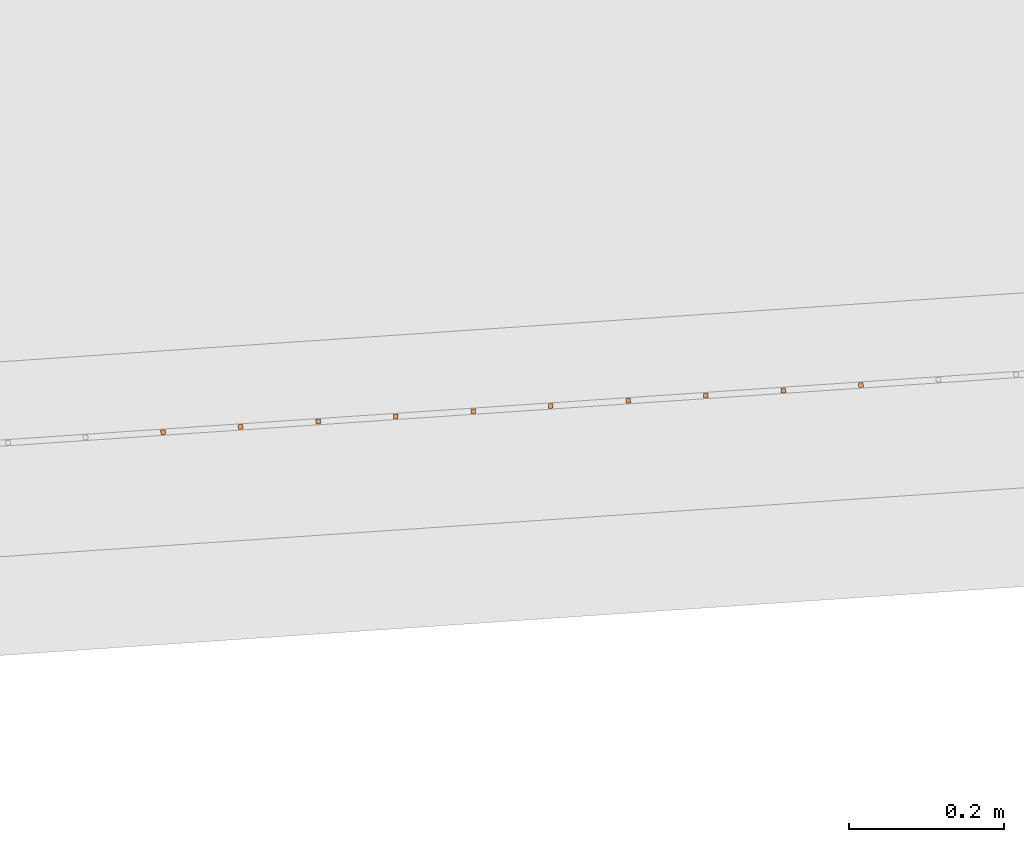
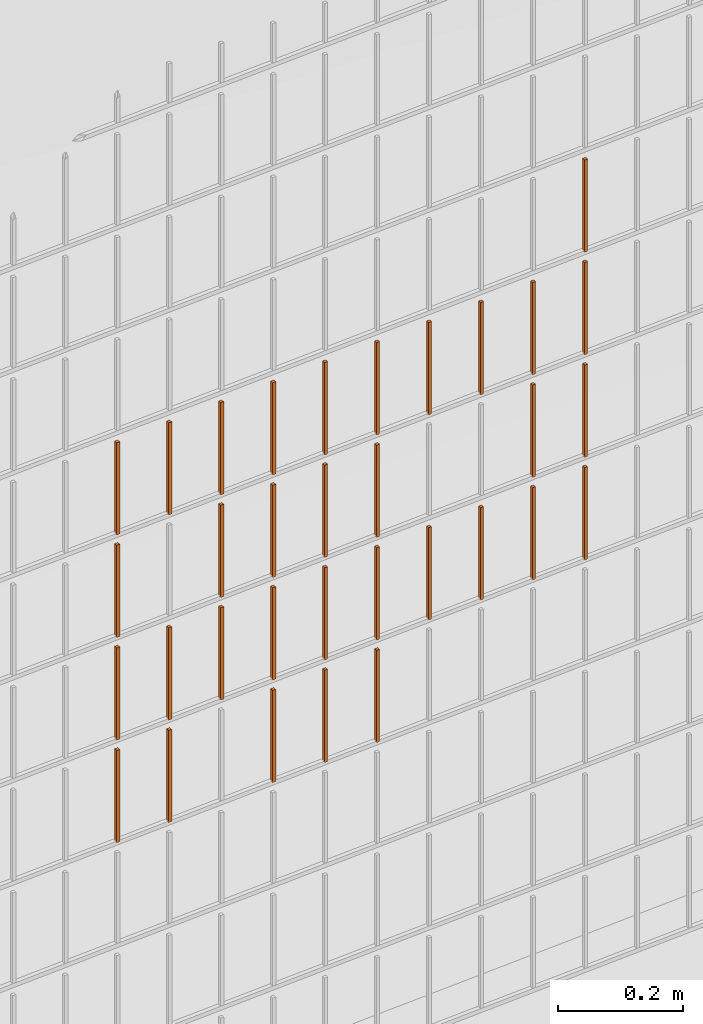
# One storey, part 356 of 1809: 33 proxies, 1 element without a shape of its own.
"""IFC2X3 building model written with IfcOpenShell, lengths in millimetres."""

from ifc_helpers import new_model, entity, si_unit, converted_unit, derived_unit, money_unit, direction, frame, origin_with_axes, place, context, subcontext, project, spatial, faceted_brep, source, transform, mapped, material, type_object, element, aggregate, save


model = new_model("IFC2X3")

# Units and contexts
model_context = context("Model", 3, precision=0.01, world=origin_with_axes(), true_north=direction((0.0, 1.0)))
body_context = subcontext(model_context, "Body", "Model", "MODEL_VIEW")
ifc_project = project(units=[si_unit("LENGTHUNIT", "METRE", prefix="MILLI"), si_unit("AREAUNIT", "SQUARE_METRE"), si_unit("VOLUMEUNIT", "CUBIC_METRE"), converted_unit("PLANEANGLEUNIT", "DEGREE", entity("IfcPlaneAngleMeasure", 0.0174532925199), si_unit("PLANEANGLEUNIT", "RADIAN"), dimensions=[0, 0, 0, 0, 0, 0, 0]), si_unit("SOLIDANGLEUNIT", "STERADIAN"), money_unit("EUR"), converted_unit("TIMEUNIT", "Year", entity("IfcTimeMeasure", 31556926.0), si_unit("TIMEUNIT", "SECOND"), dimensions=[0, 0, 1, 0, 0, 0, 0]), si_unit("MASSUNIT", "GRAM", prefix="KILO"), si_unit("THERMODYNAMICTEMPERATUREUNIT", "DEGREE_CELSIUS"), si_unit("LUMINOUSINTENSITYUNIT", "LUMEN"), si_unit("ENERGYUNIT", "JOULE", prefix="MEGA"), derived_unit("THERMALCONDUCTANCEUNIT", [(si_unit("POWERUNIT", "WATT"), 1), (si_unit("LENGTHUNIT", "METRE"), -1), (si_unit("THERMODYNAMICTEMPERATUREUNIT", "KELVIN"), -1)]), derived_unit("SPECIFICHEATCAPACITYUNIT", [(si_unit("ENERGYUNIT", "JOULE"), 1), (si_unit("MASSUNIT", "GRAM", prefix="KILO"), -1), (si_unit("THERMODYNAMICTEMPERATUREUNIT", "KELVIN"), -1)]), derived_unit("MASSDENSITYUNIT", [(si_unit("MASSUNIT", "GRAM", prefix="KILO"), 1), (si_unit("VOLUMEUNIT", "CUBIC_METRE"), -1)])], contexts=[model_context])

# Site, building, storey
site_placement = place(None, origin_with_axes())
site = spatial("IfcSite", under=ifc_project, at=site_placement, Name="Politse- ja Piirivalveameti ning Päästeameti ühishoone", CompositionType="ELEMENT")
building_placement = place(site_placement, origin_with_axes())
building = spatial("IfcBuilding", under=site, at=building_placement, Name="Politse- ja Piirivalveameti ning Päästeameti ühishoone", CompositionType="ELEMENT")
storey_placement = place(building_placement, origin_with_axes())
storey = spatial("IfcBuildingStorey", under=building, at=storey_placement, Name="Esimene korrus", CompositionType="ELEMENT", Elevation=0.0)

# Proxies
building_element_proxy_type_1 = type_object("IfcBuildingElementProxyType", Name="Railing Type", PredefinedType="NOTDEFINED")
proxy_1_placement = place(storey_placement, frame((89252.001212, -29183.4766571, 203.661247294), z_axis=(0.0, 0.0, 1.0), x_axis=(1.0, 0.0, 0.0)))
proxy_1 = element("IfcBuildingElementProxy", 1, at=proxy_1_placement, inside=storey, type_object=building_element_proxy_type_1, Name="PIIRDEAED")
ifc_material = material(Name="ET-03_Raud")
building_element_proxy_type_2 = type_object("IfcBuildingElementProxyType", Name="IfcBuildingElementProxy", PredefinedType="NOTDEFINED")
shared_shape_1 = source(origin_with_axes(), body_context, "Body", "Brep", [
    faceted_brep([(3.0, 3.0, -0.000752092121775), (-3.0, 3.0, -0.000752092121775), (-3.0, 3.0, 179.99926046), (3.0, 3.0, 179.99926046), (3.0, -3.0, 0.000752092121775), (-3.0, -3.0, 0.000752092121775), (-3.0, -3.0, 180.000764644), (3.0, -3.0, 180.000764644)], [[[0, 1, 2, 3]], [[0, 4, 5, 1]], [[1, 5, 6, 2]], [[3, 2, 6, 7]], [[4, 0, 3, 7]], [[5, 4, 7, 6]]]),
])
proxy_2_placement = place(proxy_1_placement, frame((-25468.6538161, -19018.0862117, 820.834911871), z_axis=(0.0, 0.0, 1.0), x_axis=(1.0, 0.0, 0.0)))
proxy_2 = element("IfcBuildingElementProxy", 2, at=proxy_2_placement, type_object=building_element_proxy_type_2, material=ifc_material, Name="BALUSTER - 001", context=body_context, shape_type="MappedRepresentation", body=[
    mapped(shared_shape_1, transform((0.0, 0.0, 0.0), x_axis=(-0.0673926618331, 0.997726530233, 0.0), y_axis=(-0.997726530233, -0.0673926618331, 0.0), z_axis=(0.0, 0.0, 1.0))),
])
proxy_3_placement = place(proxy_1_placement, frame((-25468.6538161, -19018.0862117, 1220.83491187), z_axis=(0.0, 0.0, 1.0), x_axis=(1.0, 0.0, 0.0)))
proxy_3 = element("IfcBuildingElementProxy", 3, at=proxy_3_placement, type_object=building_element_proxy_type_2, material=ifc_material, Name="BALUSTER - 001", context=body_context, shape_type="MappedRepresentation", body=[
    mapped(shared_shape_1, transform((0.0, 0.0, 0.0), x_axis=(-0.0673926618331, 0.997726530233, 0.0), y_axis=(-0.997726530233, -0.0673926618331, 0.0), z_axis=(0.0, 0.0, 1.0))),
])
shared_shape_2 = source(origin_with_axes(), body_context, "Body", "Brep", [
    faceted_brep([(3.0, 3.0, -0.000752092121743), (-3.0, 3.0, -0.000752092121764), (-3.0, 3.0, 179.99926046), (3.0, 3.0, 179.99926046), (3.0, -3.0, 0.000752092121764), (-3.0, -3.0, 0.000752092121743), (-3.0, -3.0, 180.000764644), (3.0, -3.0, 180.000764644)], [[[0, 1, 2, 3]], [[0, 4, 5, 1]], [[1, 5, 6, 2]], [[3, 2, 6, 7]], [[4, 0, 3, 7]], [[5, 4, 7, 6]]]),
])
proxy_4_placement = place(proxy_1_placement, frame((-25767.9717752, -19038.3040102, 620.759702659), z_axis=(0.0, 0.0, 1.0), x_axis=(1.0, 0.0, 0.0)))
proxy_4 = element("IfcBuildingElementProxy", 4, at=proxy_4_placement, type_object=building_element_proxy_type_2, material=ifc_material, Name="BALUSTER - 001", context=body_context, shape_type="MappedRepresentation", body=[
    mapped(shared_shape_2, transform((0.0, 0.0, 0.0), x_axis=(-0.0673926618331, 0.997726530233, 0.0), y_axis=(-0.997726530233, -0.0673926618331, 0.0), z_axis=(0.0, 0.0, 1.0))),
])
shared_shape_3 = source(origin_with_axes(), body_context, "Body", "Brep", [
    faceted_brep([(3.0, 3.0, -0.000752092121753), (-3.0, 3.0, -0.000752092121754), (-3.0, 3.0, 179.99926046), (3.0, 3.0, 179.99926046), (3.0, -3.0, 0.000752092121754), (-3.0, -3.0, 0.000752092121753), (-3.0, -3.0, 180.000764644), (3.0, -3.0, 180.000764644)], [[[0, 1, 2, 3]], [[0, 4, 5, 1]], [[1, 5, 6, 2]], [[3, 2, 6, 7]], [[4, 0, 3, 7]], [[5, 4, 7, 6]]]),
])
proxy_5_placement = place(proxy_1_placement, frame((-25867.7444282, -19045.0432764, 620.734632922), z_axis=(0.0, 0.0, 1.0), x_axis=(1.0, 0.0, 0.0)))
proxy_5 = element("IfcBuildingElementProxy", 5, at=proxy_5_placement, type_object=building_element_proxy_type_2, material=ifc_material, Name="BALUSTER - 001", context=body_context, shape_type="MappedRepresentation", body=[
    mapped(shared_shape_3, transform((0.0, 0.0, 0.0), x_axis=(-0.0673926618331, 0.997726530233, 0.0), y_axis=(-0.997726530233, -0.0673926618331, 0.0), z_axis=(0.0, 0.0, 1.0))),
])
shared_shape_4 = source(origin_with_axes(), body_context, "Body", "Brep", [
    faceted_brep([(3.0, 3.0, -0.000752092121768), (-3.0, 3.0, -0.000752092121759), (-3.00000000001, 2.99999999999, 179.99926046), (2.99999999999, 2.99999999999, 179.99926046), (3.0, -3.0, 0.000752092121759), (-3.0, -3.0, 0.000752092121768), (-3.00000000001, -3.00000000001, 180.000764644), (2.99999999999, -3.00000000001, 180.000764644)], [[[0, 1, 2, 3]], [[0, 4, 5, 1]], [[1, 5, 6, 2]], [[3, 2, 6, 7]], [[4, 0, 3, 7]], [[5, 4, 7, 6]]]),
])
proxy_6_placement = place(proxy_1_placement, frame((-26167.0623873, -19065.2610749, 1020.65942371), z_axis=(0.0, 0.0, 1.0), x_axis=(1.0, 0.0, 0.0)))
proxy_6 = element("IfcBuildingElementProxy", 6, at=proxy_6_placement, type_object=building_element_proxy_type_2, material=ifc_material, Name="BALUSTER - 001", context=body_context, shape_type="MappedRepresentation", body=[
    mapped(shared_shape_4, transform((0.0, 0.0, 0.0), x_axis=(-0.0673926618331, 0.997726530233, 0.0), y_axis=(-0.997726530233, -0.0673926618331, 0.0), z_axis=(0.0, 0.0, 1.0))),
])
shared_shape_5 = source(origin_with_axes(), body_context, "Body", "Brep", [
    faceted_brep([(3.0, 3.0, -0.000752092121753), (-3.0, 3.0, -0.000752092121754), (-3.0, 3.0, 179.99926046), (3.0, 3.0, 179.99926046), (3.0, -3.0, 0.000752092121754), (-3.0, -3.0, 0.000752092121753), (-3.0, -3.0, 180.000764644), (3.0, -3.0, 180.000764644)], [[[0, 1, 2, 3]], [[0, 4, 5, 1]], [[1, 5, 6, 2]], [[3, 2, 6, 7]], [[4, 0, 3, 7]], [[5, 4, 7, 6]]]),
])
proxy_7_placement = place(proxy_1_placement, frame((-25767.9717752, -19038.3040102, 1220.75970266), z_axis=(0.0, 0.0, 1.0), x_axis=(1.0, 0.0, 0.0)))
proxy_7 = element("IfcBuildingElementProxy", 7, at=proxy_7_placement, type_object=building_element_proxy_type_2, material=ifc_material, Name="BALUSTER - 001", context=body_context, shape_type="MappedRepresentation", body=[
    mapped(shared_shape_5, transform((0.0, 0.0, 0.0), x_axis=(-0.0673926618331, 0.997726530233, 0.0), y_axis=(-0.997726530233, -0.0673926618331, 0.0), z_axis=(0.0, 0.0, 1.0))),
])
shared_shape_6 = source(origin_with_axes(), body_context, "Body", "Brep", [
    faceted_brep([(3.0, 3.0, -0.000752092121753), (-3.0, 3.0, -0.000752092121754), (-3.0, 3.0, 179.99926046), (3.0, 3.0, 179.99926046), (3.0, -3.0, 0.000752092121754), (-3.0, -3.0, 0.000752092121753), (-3.0, -3.0, 180.000764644), (3.0, -3.0, 180.000764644)], [[[0, 1, 2, 3]], [[0, 4, 5, 1]], [[1, 5, 6, 2]], [[3, 2, 6, 7]], [[4, 0, 3, 7]], [[5, 4, 7, 6]]]),
])
proxy_8_placement = place(proxy_1_placement, frame((-25867.7444282, -19045.0432764, 820.734632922), z_axis=(0.0, 0.0, 1.0), x_axis=(1.0, 0.0, 0.0)))
proxy_8 = element("IfcBuildingElementProxy", 8, at=proxy_8_placement, type_object=building_element_proxy_type_2, material=ifc_material, Name="BALUSTER - 001", context=body_context, shape_type="MappedRepresentation", body=[
    mapped(shared_shape_6, transform((0.0, 0.0, 0.0), x_axis=(-0.0673926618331, 0.997726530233, 0.0), y_axis=(-0.997726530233, -0.0673926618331, 0.0), z_axis=(0.0, 0.0, 1.0))),
])
shared_shape_7 = source(origin_with_axes(), body_context, "Body", "Brep", [
    faceted_brep([(3.0, 3.0, -0.000752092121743), (-3.0, 3.0, -0.000752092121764), (-3.0, 3.0, 179.99926046), (3.0, 3.0, 179.99926046), (3.0, -3.0, 0.000752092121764), (-3.0, -3.0, 0.000752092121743), (-3.0, -3.0, 180.000764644), (3.0, -3.0, 180.000764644)], [[[0, 1, 2, 3]], [[0, 4, 5, 1]], [[1, 5, 6, 2]], [[3, 2, 6, 7]], [[4, 0, 3, 7]], [[5, 4, 7, 6]]]),
])
proxy_9_placement = place(proxy_1_placement, frame((-25767.9717752, -19038.3040102, 820.759702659), z_axis=(0.0, 0.0, 1.0), x_axis=(1.0, 0.0, 0.0)))
proxy_9 = element("IfcBuildingElementProxy", 9, at=proxy_9_placement, type_object=building_element_proxy_type_2, material=ifc_material, Name="BALUSTER - 001", context=body_context, shape_type="MappedRepresentation", body=[
    mapped(shared_shape_7, transform((0.0, 0.0, 0.0), x_axis=(-0.0673926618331, 0.997726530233, 0.0), y_axis=(-0.997726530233, -0.0673926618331, 0.0), z_axis=(0.0, 0.0, 1.0))),
])
shared_shape_8 = source(origin_with_axes(), body_context, "Body", "Brep", [
    faceted_brep([(3.0, 3.0, -0.000752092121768), (-3.0, 3.0, -0.000752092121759), (-3.00000000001, 2.99999999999, 179.99926046), (2.99999999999, 2.99999999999, 179.99926046), (3.0, -3.0, 0.000752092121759), (-3.0, -3.0, 0.000752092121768), (-3.00000000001, -3.00000000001, 180.000764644), (2.99999999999, -3.00000000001, 180.000764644)], [[[0, 1, 2, 3]], [[0, 4, 5, 1]], [[1, 5, 6, 2]], [[3, 2, 6, 7]], [[4, 0, 3, 7]], [[5, 4, 7, 6]]]),
])
proxy_10_placement = place(proxy_1_placement, frame((-25368.8811631, -19011.3469455, 1020.85998161), z_axis=(0.0, 0.0, 1.0), x_axis=(1.0, 0.0, 0.0)))
proxy_10 = element("IfcBuildingElementProxy", 10, at=proxy_10_placement, type_object=building_element_proxy_type_2, material=ifc_material, Name="BALUSTER - 001", context=body_context, shape_type="MappedRepresentation", body=[
    mapped(shared_shape_8, transform((0.0, 0.0, 0.0), x_axis=(-0.0673926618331, 0.997726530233, 0.0), y_axis=(-0.997726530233, -0.0673926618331, 0.0), z_axis=(0.0, 0.0, 1.0))),
])
shared_shape_9 = source(origin_with_axes(), body_context, "Body", "Brep", [
    faceted_brep([(3.0, 3.0, -0.000752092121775), (-3.0, 3.0, -0.000752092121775), (-3.0, 3.0, 179.99926046), (3.0, 3.0, 179.99926046), (3.0, -3.0, 0.000752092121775), (-3.0, -3.0, 0.000752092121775), (-3.0, -3.0, 180.000764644), (3.0, -3.0, 180.000764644)], [[[0, 1, 2, 3]], [[0, 4, 5, 1]], [[1, 5, 6, 2]], [[3, 2, 6, 7]], [[4, 0, 3, 7]], [[5, 4, 7, 6]]]),
])
proxy_11_placement = place(proxy_1_placement, frame((-26167.0623873, -19065.2610749, 620.65942371), z_axis=(0.0, 0.0, 1.0), x_axis=(1.0, 0.0, 0.0)))
proxy_11 = element("IfcBuildingElementProxy", 11, at=proxy_11_placement, type_object=building_element_proxy_type_2, material=ifc_material, Name="BALUSTER - 001", context=body_context, shape_type="MappedRepresentation", body=[
    mapped(shared_shape_9, transform((0.0, 0.0, 0.0), x_axis=(-0.0673926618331, 0.997726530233, 0.0), y_axis=(-0.997726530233, -0.0673926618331, 0.0), z_axis=(0.0, 0.0, 1.0))),
])
shared_shape_10 = source(origin_with_axes(), body_context, "Body", "Brep", [
    faceted_brep([(3.0, 3.0, -0.000752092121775), (-3.0, 3.0, -0.000752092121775), (-3.0, 3.0, 179.99926046), (3.0, 3.0, 179.99926046), (3.0, -3.0, 0.000752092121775), (-3.0, -3.0, 0.000752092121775), (-3.0, -3.0, 180.000764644), (3.0, -3.0, 180.000764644)], [[[0, 1, 2, 3]], [[0, 4, 5, 1]], [[1, 5, 6, 2]], [[3, 2, 6, 7]], [[4, 0, 3, 7]], [[5, 4, 7, 6]]]),
])
proxy_12_placement = place(proxy_1_placement, frame((-26167.0623873, -19065.2610749, 820.65942371), z_axis=(0.0, 0.0, 1.0), x_axis=(1.0, 0.0, 0.0)))
proxy_12 = element("IfcBuildingElementProxy", 12, at=proxy_12_placement, type_object=building_element_proxy_type_2, material=ifc_material, Name="BALUSTER - 001", context=body_context, shape_type="MappedRepresentation", body=[
    mapped(shared_shape_10, transform((0.0, 0.0, 0.0), x_axis=(-0.0673926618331, 0.997726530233, 0.0), y_axis=(-0.997726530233, -0.0673926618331, 0.0), z_axis=(0.0, 0.0, 1.0))),
])
proxy_13_placement = place(proxy_1_placement, frame((-26167.0623873, -19065.2610749, 1220.65942371), z_axis=(0.0, 0.0, 1.0), x_axis=(1.0, 0.0, 0.0)))
proxy_13 = element("IfcBuildingElementProxy", 13, at=proxy_13_placement, type_object=building_element_proxy_type_2, material=ifc_material, Name="BALUSTER - 001", context=body_context, shape_type="MappedRepresentation", body=[
    mapped(shared_shape_10, transform((0.0, 0.0, 0.0), x_axis=(-0.0673926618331, 0.997726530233, 0.0), y_axis=(-0.997726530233, -0.0673926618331, 0.0), z_axis=(0.0, 0.0, 1.0))),
])
shared_shape_11 = source(origin_with_axes(), body_context, "Body", "Brep", [
    faceted_brep([(3.0, 3.0, -0.000752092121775), (-3.0, 3.0, -0.000752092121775), (-3.0, 3.0, 179.99926046), (3.0, 3.0, 179.99926046), (3.0, -3.0, 0.000752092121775), (-3.0, -3.0, 0.000752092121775), (-3.0, -3.0, 180.000764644), (3.0, -3.0, 180.000764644)], [[[0, 1, 2, 3]], [[0, 4, 5, 1]], [[1, 5, 6, 2]], [[3, 2, 6, 7]], [[4, 0, 3, 7]], [[5, 4, 7, 6]]]),
])
proxy_14_placement = place(proxy_1_placement, frame((-26067.2897343, -19058.5218088, 1220.68449345), z_axis=(0.0, 0.0, 1.0), x_axis=(1.0, 0.0, 0.0)))
proxy_14 = element("IfcBuildingElementProxy", 14, at=proxy_14_placement, type_object=building_element_proxy_type_2, material=ifc_material, Name="BALUSTER - 001", context=body_context, shape_type="MappedRepresentation", body=[
    mapped(shared_shape_11, transform((0.0, 0.0, 0.0), x_axis=(-0.0673926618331, 0.997726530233, 0.0), y_axis=(-0.997726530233, -0.0673926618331, 0.0), z_axis=(0.0, 0.0, 1.0))),
])
shared_shape_12 = source(origin_with_axes(), body_context, "Body", "Brep", [
    faceted_brep([(3.0, 3.0, -0.000752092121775), (-3.0, 3.0, -0.000752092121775), (-3.0, 3.0, 179.99926046), (3.0, 3.0, 179.99926046), (3.0, -3.0, 0.000752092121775), (-3.0, -3.0, 0.000752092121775), (-3.0, -3.0, 180.000764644), (3.0, -3.0, 180.000764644)], [[[0, 1, 2, 3]], [[0, 4, 5, 1]], [[1, 5, 6, 2]], [[3, 2, 6, 7]], [[4, 0, 3, 7]], [[5, 4, 7, 6]]]),
])
proxy_15_placement = place(proxy_1_placement, frame((-25368.8811631, -19011.3469455, 1220.85998161), z_axis=(0.0, 0.0, 1.0), x_axis=(1.0, 0.0, 0.0)))
proxy_15 = element("IfcBuildingElementProxy", 15, at=proxy_15_placement, type_object=building_element_proxy_type_2, material=ifc_material, Name="BALUSTER - 001", context=body_context, shape_type="MappedRepresentation", body=[
    mapped(shared_shape_12, transform((0.0, 0.0, 0.0), x_axis=(-0.0673926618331, 0.997726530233, 0.0), y_axis=(-0.997726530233, -0.0673926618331, 0.0), z_axis=(0.0, 0.0, 1.0))),
])
shared_shape_13 = source(origin_with_axes(), body_context, "Body", "Brep", [
    faceted_brep([(3.0, 3.0, -0.000752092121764), (-3.0, 3.0, -0.000752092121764), (-3.0, 3.0, 179.99926046), (3.0, 3.0, 179.99926046), (3.0, -3.0, 0.000752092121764), (-3.0, -3.0, 0.000752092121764), (-3.0, -3.0, 180.000764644), (3.0, -3.0, 180.000764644)], [[[0, 1, 2, 3]], [[0, 4, 5, 1]], [[1, 5, 6, 2]], [[3, 2, 6, 7]], [[4, 0, 3, 7]], [[5, 4, 7, 6]]]),
])
proxy_16_placement = place(proxy_1_placement, frame((-25568.4264692, -19024.8254778, 820.809842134), z_axis=(0.0, 0.0, 1.0), x_axis=(1.0, 0.0, 0.0)))
proxy_16 = element("IfcBuildingElementProxy", 16, at=proxy_16_placement, type_object=building_element_proxy_type_2, material=ifc_material, Name="BALUSTER - 001", context=body_context, shape_type="MappedRepresentation", body=[
    mapped(shared_shape_13, transform((0.0, 0.0, 0.0), x_axis=(-0.0673926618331, 0.997726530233, 0.0), y_axis=(-0.997726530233, -0.0673926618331, 0.0), z_axis=(0.0, 0.0, 1.0))),
])
proxy_17_placement = place(proxy_1_placement, frame((-25568.4264692, -19024.8254778, 1220.80984213), z_axis=(0.0, 0.0, 1.0), x_axis=(1.0, 0.0, 0.0)))
proxy_17 = element("IfcBuildingElementProxy", 17, at=proxy_17_placement, type_object=building_element_proxy_type_2, material=ifc_material, Name="BALUSTER - 001", context=body_context, shape_type="MappedRepresentation", body=[
    mapped(shared_shape_13, transform((0.0, 0.0, 0.0), x_axis=(-0.0673926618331, 0.997726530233, 0.0), y_axis=(-0.997726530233, -0.0673926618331, 0.0), z_axis=(0.0, 0.0, 1.0))),
])
shared_shape_14 = source(origin_with_axes(), body_context, "Body", "Brep", [
    faceted_brep([(3.0, 3.0, -0.000752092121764), (-3.0, 3.0, -0.000752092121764), (-3.0, 3.0, 179.99926046), (3.0, 3.0, 179.99926046), (3.0, -3.0, 0.000752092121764), (-3.0, -3.0, 0.000752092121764), (-3.0, -3.0, 180.000764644), (3.0, -3.0, 180.000764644)], [[[0, 1, 2, 3]], [[0, 4, 5, 1]], [[1, 5, 6, 2]], [[3, 2, 6, 7]], [[4, 0, 3, 7]], [[5, 4, 7, 6]]]),
])
proxy_18_placement = place(proxy_1_placement, frame((-25668.1991222, -19031.564744, 1220.7847724), z_axis=(0.0, 0.0, 1.0), x_axis=(1.0, 0.0, 0.0)))
proxy_18 = element("IfcBuildingElementProxy", 18, at=proxy_18_placement, type_object=building_element_proxy_type_2, material=ifc_material, Name="BALUSTER - 001", context=body_context, shape_type="MappedRepresentation", body=[
    mapped(shared_shape_14, transform((0.0, 0.0, 0.0), x_axis=(-0.0673926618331, 0.997726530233, 0.0), y_axis=(-0.997726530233, -0.0673926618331, 0.0), z_axis=(0.0, 0.0, 1.0))),
])
shared_shape_15 = source(origin_with_axes(), body_context, "Body", "Brep", [
    faceted_brep([(3.0, 3.0, -0.000752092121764), (-3.0, 3.0, -0.000752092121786), (-3.0, 3.0, 179.99926046), (3.0, 3.0, 179.99926046), (3.0, -3.0, 0.000752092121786), (-3.0, -3.0, 0.000752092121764), (-3.0, -3.0, 180.000764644), (3.0, -3.0, 180.000764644)], [[[0, 1, 2, 3]], [[0, 4, 5, 1]], [[1, 5, 6, 2]], [[3, 2, 6, 7]], [[4, 0, 3, 7]], [[5, 4, 7, 6]]]),
])
proxy_19_placement = place(proxy_1_placement, frame((-26067.2897343, -19058.5218088, 620.684493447), z_axis=(0.0, 0.0, 1.0), x_axis=(1.0, 0.0, 0.0)))
proxy_19 = element("IfcBuildingElementProxy", 19, at=proxy_19_placement, type_object=building_element_proxy_type_2, material=ifc_material, Name="BALUSTER - 001", context=body_context, shape_type="MappedRepresentation", body=[
    mapped(shared_shape_15, transform((0.0, 0.0, 0.0), x_axis=(-0.0673926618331, 0.997726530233, 0.0), y_axis=(-0.997726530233, -0.0673926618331, 0.0), z_axis=(0.0, 0.0, 1.0))),
])
proxy_20_placement = place(proxy_1_placement, frame((-25269.1085101, -19004.6076793, 820.885051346), z_axis=(0.0, 0.0, 1.0), x_axis=(1.0, 0.0, 0.0)))
proxy_20 = element("IfcBuildingElementProxy", 20, at=proxy_20_placement, type_object=building_element_proxy_type_2, material=ifc_material, Name="BALUSTER - 001", context=body_context, shape_type="MappedRepresentation", body=[
    mapped(shared_shape_15, transform((0.0, 0.0, 0.0), x_axis=(-0.0673926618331, 0.997726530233, 0.0), y_axis=(-0.997726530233, -0.0673926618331, 0.0), z_axis=(0.0, 0.0, 1.0))),
])
proxy_21_placement = place(proxy_1_placement, frame((-25269.1085101, -19004.6076793, 1220.88505135), z_axis=(0.0, 0.0, 1.0), x_axis=(1.0, 0.0, 0.0)))
proxy_21 = element("IfcBuildingElementProxy", 21, at=proxy_21_placement, type_object=building_element_proxy_type_2, material=ifc_material, Name="BALUSTER - 001", context=body_context, shape_type="MappedRepresentation", body=[
    mapped(shared_shape_15, transform((0.0, 0.0, 0.0), x_axis=(-0.0673926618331, 0.997726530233, 0.0), y_axis=(-0.997726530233, -0.0673926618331, 0.0), z_axis=(0.0, 0.0, 1.0))),
])
shared_shape_16 = source(origin_with_axes(), body_context, "Body", "Brep", [
    faceted_brep([(3.0, 3.0, -0.000752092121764), (-3.0, 3.0, -0.000752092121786), (-3.0, 3.0, 179.99926046), (3.0, 3.0, 179.99926046), (3.0, -3.0, 0.000752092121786), (-3.0, -3.0, 0.000752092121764), (-3.0, -3.0, 180.000764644), (3.0, -3.0, 180.000764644)], [[[0, 1, 2, 3]], [[0, 4, 5, 1]], [[1, 5, 6, 2]], [[3, 2, 6, 7]], [[4, 0, 3, 7]], [[5, 4, 7, 6]]]),
])
proxy_22_placement = place(proxy_1_placement, frame((-25368.8811631, -19011.3469455, 820.859981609), z_axis=(0.0, 0.0, 1.0), x_axis=(1.0, 0.0, 0.0)))
proxy_22 = element("IfcBuildingElementProxy", 22, at=proxy_22_placement, type_object=building_element_proxy_type_2, material=ifc_material, Name="BALUSTER - 001", context=body_context, shape_type="MappedRepresentation", body=[
    mapped(shared_shape_16, transform((0.0, 0.0, 0.0), x_axis=(-0.0673926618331, 0.997726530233, 0.0), y_axis=(-0.997726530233, -0.0673926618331, 0.0), z_axis=(0.0, 0.0, 1.0))),
])
shared_shape_17 = source(origin_with_axes(), body_context, "Body", "Brep", [
    faceted_brep([(3.0, 3.0, -0.000752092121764), (-3.0, 3.0, -0.000752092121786), (-3.0, 3.0, 179.99926046), (3.0, 3.0, 179.99926046), (3.0, -3.0, 0.000752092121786), (-3.0, -3.0, 0.000752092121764), (-3.0, -3.0, 180.000764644), (3.0, -3.0, 180.000764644)], [[[0, 1, 2, 3]], [[0, 4, 5, 1]], [[1, 5, 6, 2]], [[3, 2, 6, 7]], [[4, 0, 3, 7]], [[5, 4, 7, 6]]]),
])
proxy_23_placement = place(proxy_1_placement, frame((-26067.2897343, -19058.5218088, 820.684493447), z_axis=(0.0, 0.0, 1.0), x_axis=(1.0, 0.0, 0.0)))
proxy_23 = element("IfcBuildingElementProxy", 23, at=proxy_23_placement, type_object=building_element_proxy_type_2, material=ifc_material, Name="BALUSTER - 001", context=body_context, shape_type="MappedRepresentation", body=[
    mapped(shared_shape_17, transform((0.0, 0.0, 0.0), x_axis=(-0.0673926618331, 0.997726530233, 0.0), y_axis=(-0.997726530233, -0.0673926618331, 0.0), z_axis=(0.0, 0.0, 1.0))),
])
shared_shape_18 = source(origin_with_axes(), body_context, "Body", "Brep", [
    faceted_brep([(3.0, 3.0, -0.000752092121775), (-3.0, 3.0, -0.000752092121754), (-3.0, 3.0, 179.99926046), (3.0, 3.0, 179.99926046), (3.0, -3.0, 0.000752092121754), (-3.0, -3.0, 0.000752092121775), (-3.0, -3.0, 180.000764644), (3.0, -3.0, 180.000764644)], [[[0, 1, 2, 3]], [[0, 4, 5, 1]], [[1, 5, 6, 2]], [[3, 2, 6, 7]], [[4, 0, 3, 7]], [[5, 4, 7, 6]]]),
])
proxy_24_placement = place(proxy_1_placement, frame((-25668.1991222, -19031.564744, 620.784772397), z_axis=(0.0, 0.0, 1.0), x_axis=(1.0, 0.0, 0.0)))
proxy_24 = element("IfcBuildingElementProxy", 24, at=proxy_24_placement, type_object=building_element_proxy_type_2, material=ifc_material, Name="BALUSTER - 001", context=body_context, shape_type="MappedRepresentation", body=[
    mapped(shared_shape_18, transform((0.0, 0.0, 0.0), x_axis=(-0.0673926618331, 0.997726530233, 0.0), y_axis=(-0.997726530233, -0.0673926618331, 0.0), z_axis=(0.0, 0.0, 1.0))),
])
shared_shape_19 = source(origin_with_axes(), body_context, "Body", "Brep", [
    faceted_brep([(3.0, 3.0, -0.000752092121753), (-3.0, 3.0, -0.000752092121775), (-3.0, 3.0, 179.99926046), (3.0, 3.0, 179.99926046), (3.0, -3.0, 0.000752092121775), (-3.0, -3.0, 0.000752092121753), (-3.0, -3.0, 180.000764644), (3.0, -3.0, 180.000764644)], [[[0, 1, 2, 3]], [[0, 4, 5, 1]], [[1, 5, 6, 2]], [[3, 2, 6, 7]], [[4, 0, 3, 7]], [[5, 4, 7, 6]]]),
])
proxy_25_placement = place(proxy_1_placement, frame((-25867.7444282, -19045.0432764, 1220.73463292), z_axis=(0.0, 0.0, 1.0), x_axis=(1.0, 0.0, 0.0)))
proxy_25 = element("IfcBuildingElementProxy", 25, at=proxy_25_placement, type_object=building_element_proxy_type_2, material=ifc_material, Name="BALUSTER - 001", context=body_context, shape_type="MappedRepresentation", body=[
    mapped(shared_shape_19, transform((0.0, 0.0, 0.0), x_axis=(-0.0673926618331, 0.997726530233, 0.0), y_axis=(-0.997726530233, -0.0673926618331, 0.0), z_axis=(0.0, 0.0, 1.0))),
])
shared_shape_20 = source(origin_with_axes(), body_context, "Body", "Brep", [
    faceted_brep([(3.0, 3.0, -0.000752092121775), (-3.0, 3.0, -0.000752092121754), (-3.0, 3.0, 179.99926046), (3.0, 3.0, 179.99926046), (3.0, -3.0, 0.000752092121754), (-3.0, -3.0, 0.000752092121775), (-3.0, -3.0, 180.000764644), (3.0, -3.0, 180.000764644)], [[[0, 1, 2, 3]], [[0, 4, 5, 1]], [[1, 5, 6, 2]], [[3, 2, 6, 7]], [[4, 0, 3, 7]], [[5, 4, 7, 6]]]),
])
proxy_26_placement = place(proxy_1_placement, frame((-25668.1991222, -19031.564744, 820.784772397), z_axis=(0.0, 0.0, 1.0), x_axis=(1.0, 0.0, 0.0)))
proxy_26 = element("IfcBuildingElementProxy", 26, at=proxy_26_placement, type_object=building_element_proxy_type_2, material=ifc_material, Name="BALUSTER - 001", context=body_context, shape_type="MappedRepresentation", body=[
    mapped(shared_shape_20, transform((0.0, 0.0, 0.0), x_axis=(-0.0673926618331, 0.997726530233, 0.0), y_axis=(-0.997726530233, -0.0673926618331, 0.0), z_axis=(0.0, 0.0, 1.0))),
])
shared_shape_21 = source(origin_with_axes(), body_context, "Body", "Brep", [
    faceted_brep([(3.0, 3.0, -0.000752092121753), (-3.0, 3.0, -0.000752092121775), (-3.0, 3.0, 179.99926046), (3.0, 3.0, 179.99926046), (3.0, -3.0, 0.000752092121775), (-3.0, -3.0, 0.000752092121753), (-3.0, -3.0, 180.000764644), (3.0, -3.0, 180.000764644)], [[[0, 1, 2, 3]], [[0, 4, 5, 1]], [[1, 5, 6, 2]], [[3, 2, 6, 7]], [[4, 0, 3, 7]], [[5, 4, 7, 6]]]),
])
proxy_27_placement = place(proxy_1_placement, frame((-25967.5170812, -19051.7825426, 820.709563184), z_axis=(0.0, 0.0, 1.0), x_axis=(1.0, 0.0, 0.0)))
proxy_27 = element("IfcBuildingElementProxy", 27, at=proxy_27_placement, type_object=building_element_proxy_type_2, material=ifc_material, Name="BALUSTER - 001", context=body_context, shape_type="MappedRepresentation", body=[
    mapped(shared_shape_21, transform((0.0, 0.0, 0.0), x_axis=(-0.0673926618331, 0.997726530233, 0.0), y_axis=(-0.997726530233, -0.0673926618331, 0.0), z_axis=(0.0, 0.0, 1.0))),
])
proxy_28_placement = place(proxy_1_placement, frame((-25967.5170812, -19051.7825426, 1220.70956318), z_axis=(0.0, 0.0, 1.0), x_axis=(1.0, 0.0, 0.0)))
proxy_28 = element("IfcBuildingElementProxy", 28, at=proxy_28_placement, type_object=building_element_proxy_type_2, material=ifc_material, Name="BALUSTER - 001", context=body_context, shape_type="MappedRepresentation", body=[
    mapped(shared_shape_21, transform((0.0, 0.0, 0.0), x_axis=(-0.0673926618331, 0.997726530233, 0.0), y_axis=(-0.997726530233, -0.0673926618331, 0.0), z_axis=(0.0, 0.0, 1.0))),
])
shared_shape_22 = source(origin_with_axes(), body_context, "Body", "Brep", [
    faceted_brep([(3.0, 3.0, -0.000752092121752), (-3.0, 3.0, -0.000752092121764), (-3.00000000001, 2.99999999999, 179.99926046), (2.99999999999, 2.99999999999, 179.99926046), (3.0, -3.0, 0.000752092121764), (-3.0, -3.0, 0.000752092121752), (-3.00000000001, -3.00000000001, 180.000764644), (2.99999999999, -3.00000000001, 180.000764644)], [[[0, 1, 2, 3]], [[0, 4, 5, 1]], [[1, 5, 6, 2]], [[3, 2, 6, 7]], [[4, 0, 3, 7]], [[5, 4, 7, 6]]]),
])
proxy_29_placement = place(proxy_1_placement, frame((-25269.1085101, -19004.6076793, 1020.88505135), z_axis=(0.0, 0.0, 1.0), x_axis=(1.0, 0.0, 0.0)))
proxy_29 = element("IfcBuildingElementProxy", 29, at=proxy_29_placement, type_object=building_element_proxy_type_2, material=ifc_material, Name="BALUSTER - 001", context=body_context, shape_type="MappedRepresentation", body=[
    mapped(shared_shape_22, transform((0.0, 0.0, 0.0), x_axis=(-0.0673926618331, 0.997726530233, 0.0), y_axis=(-0.997726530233, -0.0673926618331, 0.0), z_axis=(0.0, 0.0, 1.0))),
])
proxy_30_placement = place(proxy_1_placement, frame((-25967.5170812, -19051.7825426, 1020.70956318), z_axis=(0.0, 0.0, 1.0), x_axis=(1.0, 0.0, 0.0)))
proxy_30 = element("IfcBuildingElementProxy", 30, at=proxy_30_placement, type_object=building_element_proxy_type_2, material=ifc_material, Name="BALUSTER - 001", context=body_context, shape_type="MappedRepresentation", body=[
    mapped(shared_shape_22, transform((0.0, 0.0, 0.0), x_axis=(-0.0673926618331, 0.997726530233, 0.0), y_axis=(-0.997726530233, -0.0673926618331, 0.0), z_axis=(0.0, 0.0, 1.0))),
])
shared_shape_23 = source(origin_with_axes(), body_context, "Body", "Brep", [
    faceted_brep([(3.0, 3.0, -0.000752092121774), (-3.0, 3.0, -0.000752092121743), (-3.00000000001, 2.99999999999, 179.99926046), (2.99999999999, 2.99999999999, 179.99926046), (3.0, -3.0, 0.000752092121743), (-3.0, -3.0, 0.000752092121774), (-3.00000000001, -3.00000000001, 180.000764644), (2.99999999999, -3.00000000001, 180.000764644)], [[[0, 1, 2, 3]], [[0, 4, 5, 1]], [[1, 5, 6, 2]], [[3, 2, 6, 7]], [[4, 0, 3, 7]], [[5, 4, 7, 6]]]),
])
proxy_31_placement = place(proxy_1_placement, frame((-25668.1991222, -19031.564744, 1020.7847724), z_axis=(0.0, 0.0, 1.0), x_axis=(1.0, 0.0, 0.0)))
proxy_31 = element("IfcBuildingElementProxy", 31, at=proxy_31_placement, type_object=building_element_proxy_type_2, material=ifc_material, Name="BALUSTER - 001", context=body_context, shape_type="MappedRepresentation", body=[
    mapped(shared_shape_23, transform((0.0, 0.0, 0.0), x_axis=(-0.0673926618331, 0.997726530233, 0.0), y_axis=(-0.997726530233, -0.0673926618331, 0.0), z_axis=(0.0, 0.0, 1.0))),
])
shared_shape_24 = source(origin_with_axes(), body_context, "Body", "Brep", [
    faceted_brep([(3.0, 3.0, -0.000752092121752), (-3.0, 3.0, -0.000752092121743), (-3.00000000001, 2.99999999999, 179.99926046), (2.99999999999, 2.99999999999, 179.99926046), (3.0, -3.0, 0.000752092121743), (-3.0, -3.0, 0.000752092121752), (-3.00000000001, -3.00000000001, 180.000764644), (2.99999999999, -3.00000000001, 180.000764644)], [[[0, 1, 2, 3]], [[0, 4, 5, 1]], [[1, 5, 6, 2]], [[3, 2, 6, 7]], [[4, 0, 3, 7]], [[5, 4, 7, 6]]]),
])
proxy_32_placement = place(proxy_1_placement, frame((-25767.9717752, -19038.3040102, 1020.75970266), z_axis=(0.0, 0.0, 1.0), x_axis=(1.0, 0.0, 0.0)))
proxy_32 = element("IfcBuildingElementProxy", 32, at=proxy_32_placement, type_object=building_element_proxy_type_2, material=ifc_material, Name="BALUSTER - 001", context=body_context, shape_type="MappedRepresentation", body=[
    mapped(shared_shape_24, transform((0.0, 0.0, 0.0), x_axis=(-0.0673926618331, 0.997726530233, 0.0), y_axis=(-0.997726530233, -0.0673926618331, 0.0), z_axis=(0.0, 0.0, 1.0))),
])
shared_shape_25 = source(origin_with_axes(), body_context, "Body", "Brep", [
    faceted_brep([(3.0, 3.0, -0.000752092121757), (-3.0, 3.0, -0.000752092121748), (-3.00000000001, 2.99999999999, 179.99926046), (2.99999999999, 2.99999999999, 179.99926046), (3.0, -3.0, 0.000752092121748), (-3.0, -3.0, 0.000752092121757), (-3.00000000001, -3.00000000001, 180.000764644), (2.99999999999, -3.00000000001, 180.000764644)], [[[0, 1, 2, 3]], [[0, 4, 5, 1]], [[1, 5, 6, 2]], [[3, 2, 6, 7]], [[4, 0, 3, 7]], [[5, 4, 7, 6]]]),
])
proxy_33_placement = place(proxy_1_placement, frame((-25867.7444282, -19045.0432764, 1020.73463292), z_axis=(0.0, 0.0, 1.0), x_axis=(1.0, 0.0, 0.0)))
proxy_33 = element("IfcBuildingElementProxy", 33, at=proxy_33_placement, type_object=building_element_proxy_type_2, material=ifc_material, Name="BALUSTER - 001", context=body_context, shape_type="MappedRepresentation", body=[
    mapped(shared_shape_25, transform((0.0, 0.0, 0.0), x_axis=(-0.0673926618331, 0.997726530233, 0.0), y_axis=(-0.997726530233, -0.0673926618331, 0.0), z_axis=(0.0, 0.0, 1.0))),
])
shared_shape_26 = source(origin_with_axes(), body_context, "Body", "Brep", [
    faceted_brep([(3.0, 3.0, -0.000752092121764), (-3.0, 3.0, -0.000752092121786), (-3.0, 3.0, 179.99926046), (3.0, 3.0, 179.99926046), (3.0, -3.0, 0.000752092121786), (-3.0, -3.0, 0.000752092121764), (-3.0, -3.0, 180.000764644), (3.0, -3.0, 180.000764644)], [[[0, 1, 2, 3]], [[0, 4, 5, 1]], [[1, 5, 6, 2]], [[3, 2, 6, 7]], [[4, 0, 3, 7]], [[5, 4, 7, 6]]]),
])
proxy_34_placement = place(proxy_1_placement, frame((-25269.1085101, -19004.6076793, 1420.88505135), z_axis=(0.0, 0.0, 1.0), x_axis=(1.0, 0.0, 0.0)))
proxy_34 = element("IfcBuildingElementProxy", 34, at=proxy_34_placement, type_object=building_element_proxy_type_2, material=ifc_material, Name="BALUSTER - 001", context=body_context, shape_type="MappedRepresentation", body=[
    mapped(shared_shape_26, transform((0.0, 0.0, 0.0), x_axis=(-0.0673926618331, 0.997726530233, 0.0), y_axis=(-0.997726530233, -0.0673926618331, 0.0), z_axis=(0.0, 0.0, 1.0))),
])
aggregate(proxy_1, [proxy_24, proxy_4, proxy_5, proxy_19, proxy_11, proxy_20, proxy_22, proxy_2, proxy_16, proxy_26, proxy_9, proxy_8, proxy_27, proxy_23, proxy_12, proxy_29, proxy_10, proxy_31, proxy_32, proxy_33, proxy_30, proxy_6, proxy_21, proxy_15, proxy_3, proxy_17, proxy_18, proxy_7, proxy_25, proxy_28, proxy_14, proxy_13, proxy_34])

save(model, "model.ifc")
